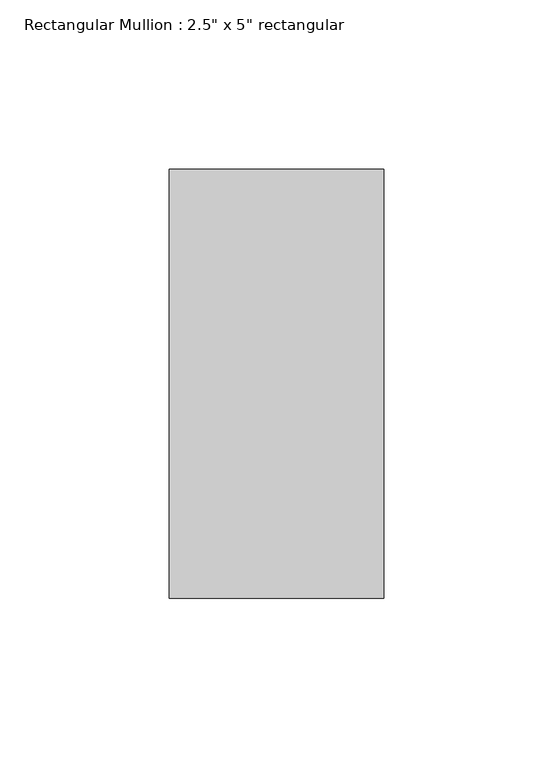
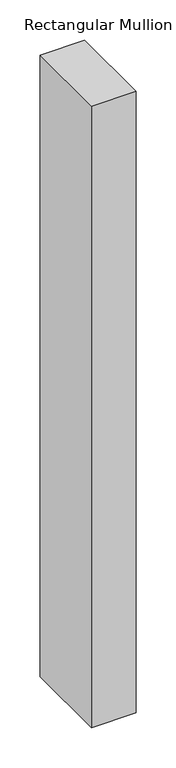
"""IFC4 building model written with IfcOpenShell, lengths in millimetres: member geometry."""

from ifc_helpers import new_model, si_unit, frame, origin, place, context, project, spatial, polyline, outline, extrude, source, transform, mapped, element, save


def member_e557a406(model_context):
    return source(origin(), model_context, "Body", "SweptSolid", [
        extrude(outline(polyline([(0.0, 63.5), (0.0, -63.5), (-63.5, -63.5), (-63.5, 63.5), (0.0, 63.5)])), frame((0.0, 0.0, -939.8), z_axis=(0.0, 0.0, 1.0), x_axis=(1.0, 0.0, 0.0)), (0.0, 0.0, 1.0), 939.8),
    ])


if __name__ == "__main__":
    model = new_model("IFC4")
    model_context = context("Model", 3, world=origin())
    ifc_project = project(units=[si_unit("LENGTHUNIT", "METRE", prefix="MILLI")], contexts=[model_context])
    site = spatial("IfcSite", under=ifc_project)
    building = spatial("IfcBuilding", under=site)
    placement = place(None, origin())
    member_shape = member_e557a406(model_context)
    element("IfcMember", 1, ObjectType="Rectangular Mullion : 2.5\" x 5\" rectangular", at=placement, inside=building, context=model_context, shape_type="MappedRepresentation", body=[
        mapped(member_shape, transform((0.0, 0.0, 0.0), x_axis=(1.0, 0.0, 0.0), y_axis=(0.0, 1.0, 0.0), z_axis=(0.0, 0.0, 1.0))),
    ])
    save(model, "model.ifc")
